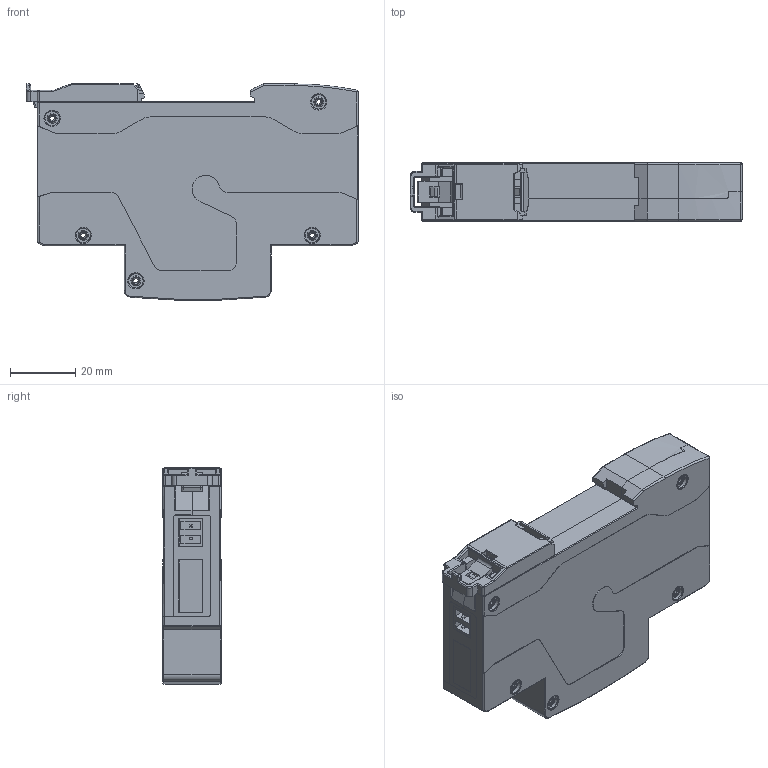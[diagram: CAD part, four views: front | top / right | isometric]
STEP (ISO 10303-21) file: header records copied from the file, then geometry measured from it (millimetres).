
FILE_DESCRIPTION((''),'2;1');
FILE_NAME('ASM0022_ASM_2_ASM_2_ASM','2023-10-26T17:09:17',('dycaotr'),(''),'CREO PARAMETRIC BY PTC INC, 2020044','CREO PARAMETRIC BY PTC INC, 2020044','');
FILE_SCHEMA(('CONFIG_CONTROL_DESIGN','SHAPE_APPEARANCE_LAYERS_GROUPS'));
Products named in the file (154): 8ZT-967-006; 5860PS1602; 8315FT1605; 8022FT1605; 8050PS1602; 8050PS1601; 8ZTD_108_066; 8ZTD_271_376; 5ZTD_271_067_ASM; OPEN_CASCADE_STEP_TRANSLATO-327; OPEN_CASCADE_STEP_TRANSLATO-317_ASM; BOARD_ASM; T2_1206-C_321616_H2; C100_ASM; 6010104119HCY75B1Y0001_RGB84215; C250_ASM; USER_LIBRARY-RES_1609-0603_1; USER_LIBRARY-RES_1609-0603_2; USER_LIBRARY-RES_1609-0603_3; USER_LIBRARY-RES_1609-0603_4; USER_LIBRARY-RES_1609-0603_ASM; L9_ASM; L8_ASM; L7_ASM; EXTRUDED-13450; 5907761968_ASM; L6_ASM; L5_ASM; L4_ASM; EXTRUDED-13721; 5907762208_ASM; CX2_ASM; R_1206-13940_1; R_1206-13940_2; R_1206-13940_3; R_1206-13940_ASM; LOGO__1; LOGO__2; LOGO__3; LOGO__4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
Assembly tree (211 placements, depth 7):
  ASM0022_ASM_2_ASM_2_ASM
    8ZT-967-006  x5
    5860PS1602
    8315FT1605
    8022FT1605
    8050PS1602
    8050PS1601
    5ZTD_271_067_ASM
      8ZTD_108_066
      8ZTD_271_376
    5599PS1601_ASM
      PCB_ASM
        BOARD_ASM
          OPEN_CASCADE_STEP_TRANSLATO-317_ASM
            OPEN_CASCADE_STEP_TRANSLATO-327
        C100_ASM
          T2_1206-C_321616_H2
        C250_ASM
          6010104119HCY75B1Y0001_RGB84215
        L9_ASM
          USER_LIBRARY-RES_1609-0603_ASM
            USER_LIBRARY-RES_1609-0603_1
            USER_LIBRARY-RES_1609-0603_2
            USER_LIBRARY-RES_1609-0603_3
            USER_LIBRARY-RES_1609-0603_4
        L8_ASM
          USER_LIBRARY-RES_1609-0603_ASM
            USER_LIBRARY-RES_1609-0603_1
            USER_LIBRARY-RES_1609-0603_2
            USER_LIBRARY-RES_1609-0603_3
            USER_LIBRARY-RES_1609-0603_4
        L7_ASM
          USER_LIBRARY-RES_1609-0603_ASM
            USER_LIBRARY-RES_1609-0603_1
            USER_LIBRARY-RES_1609-0603_2
            USER_LIBRARY-RES_1609-0603_3
            USER_LIBRARY-RES_1609-0603_4
        L6_ASM
          5907761968_ASM
            EXTRUDED-13450
        L5_ASM
          USER_LIBRARY-RES_1609-0603_ASM
            USER_LIBRARY-RES_1609-0603_1
            USER_LIBRARY-RES_1609-0603_2
            USER_LIBRARY-RES_1609-0603_3
            USER_LIBRARY-RES_1609-0603_4
        L4_ASM
          USER_LIBRARY-RES_1609-0603_ASM
            USER_LIBRARY-RES_1609-0603_1
            USER_LIBRARY-RES_1609-0603_2
            USER_LIBRARY-RES_1609-0603_3
            USER_LIBRARY-RES_1609-0603_4
        CX2_ASM
          5907762208_ASM
            EXTRUDED-13721
        R101_ASM
          R_1206-13926_ASM
            R_1206-13940_ASM
              R_1206-13940_1
              R_1206-13940_2
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Bounding box: 101.5 x 17.8 x 66.09 mm (x, y, z)
Volume: 43858.5 mm3; surface area: 62052.1 mm2
Topology: 336 solids, 336 shells, 7892 faces, 20457 edges, 13485 vertices
Faces by surface type: plane 5399, extrusion 1262, cylinder 987, torus 127, cone 70, sphere 32, bspline 15
Entity records: 143822 total; most frequent: CARTESIAN_POINT 25829, ORIENTED_EDGE 17024, DIRECTION 17006, EDGE_CURVE 8512, PRESENTATION_STYLE_ASSIGNMENT 8502, STYLED_ITEM 7342, CURVE_STYLE 6999, VECTOR 6434
